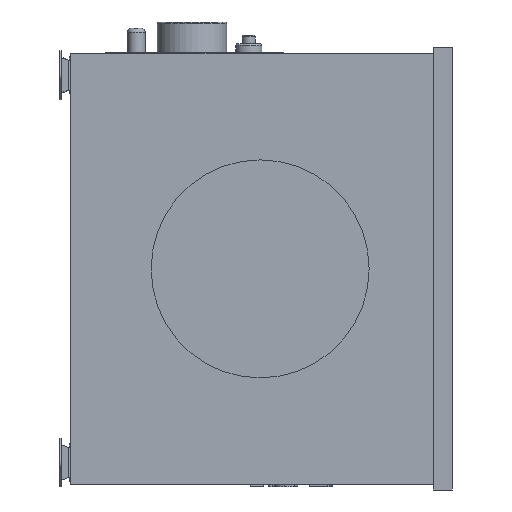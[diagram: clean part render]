
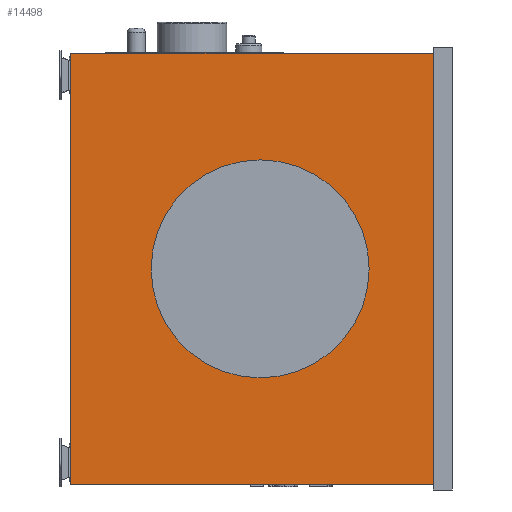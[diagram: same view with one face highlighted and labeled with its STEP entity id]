
A CAD part, front view. The second image highlights one B-rep face of the part: STEP entity #14498.
In plain terms, the highlighted planar face has unit normal (0, -1, 0).
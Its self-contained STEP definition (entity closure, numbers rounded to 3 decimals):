
#179=CIRCLE('',#15075,125.);
#316=FACE_BOUND('',#2265,.T.);
#1445=FACE_OUTER_BOUND('',#2264,.T.);
#2264=EDGE_LOOP('',(#13133,#13134,#13135,#13136));
#2265=EDGE_LOOP('',(#13137));
#3226=LINE('',#25683,#4449);
#3487=LINE('',#30459,#4710);
#3488=LINE('',#30461,#4711);
#3489=LINE('',#30462,#4712);
#4449=VECTOR('',#16494,10.);
#4710=VECTOR('',#17399,10.);
#4711=VECTOR('',#17402,10.);
#4712=VECTOR('',#17403,10.);
#6555=VERTEX_POINT('',#25679);
#6557=VERTEX_POINT('',#25682);
#6850=VERTEX_POINT('',#30446);
#6852=VERTEX_POINT('',#30453);
#6854=VERTEX_POINT('',#30457);
#8508=EDGE_CURVE('',#6555,#6557,#3226,.T.);
#8958=EDGE_CURVE('',#6850,#6850,#179,.T.);
#8962=EDGE_CURVE('',#6852,#6854,#3487,.T.);
#8963=EDGE_CURVE('',#6852,#6555,#3488,.T.);
#8964=EDGE_CURVE('',#6557,#6854,#3489,.T.);
#13133=ORIENTED_EDGE('',*,*,#8963,.F.);
#13134=ORIENTED_EDGE('',*,*,#8962,.T.);
#13135=ORIENTED_EDGE('',*,*,#8964,.F.);
#13136=ORIENTED_EDGE('',*,*,#8508,.F.);
#13137=ORIENTED_EDGE('',*,*,#8958,.T.);
#13513=PLANE('',#15079);
#14498=ADVANCED_FACE('',(#1445,#316),#13513,.T.);
#15075=AXIS2_PLACEMENT_3D('',#30448,#17388,#17389);
#15079=AXIS2_PLACEMENT_3D('',#30460,#17400,#17401);
#16494=DIRECTION('',(-1.,0.,0.));
#17388=DIRECTION('center_axis',(0.,1.,0.));
#17389=DIRECTION('ref_axis',(0.,0.,
1.));
#17399=DIRECTION('',(-1.,0.,0.));
#17400=DIRECTION('center_axis',(0.,-1.,0.));
#17401=DIRECTION('ref_axis',(0.,0.,
1.));
#17402=DIRECTION('',(0.,0.,-1.));
#17403=DIRECTION('',(0.,0.,1.));
#25679=CARTESIAN_POINT('',(804.595,450.413,-163.388));
#25682=CARTESIAN_POINT('',(389.095,450.413,-163.388));
#25683=CARTESIAN_POINT('',(804.595,450.413,-163.388));
#30446=CARTESIAN_POINT('',(606.095,450.413,-41.388));
#30448=CARTESIAN_POINT('Origin',(606.095,450.413,83.612));
#30453=CARTESIAN_POINT('',(804.595,450.413,330.612));
#30457=CARTESIAN_POINT('',(389.095,450.413,330.612));
#30459=CARTESIAN_POINT('',(804.595,450.413,330.612));
#30460=CARTESIAN_POINT('Origin',(804.595,450.413,-163.388));
#30461=CARTESIAN_POINT('',(804.595,450.413,-39.888));
#30462=CARTESIAN_POINT('',(389.095,450.413,-163.388));
